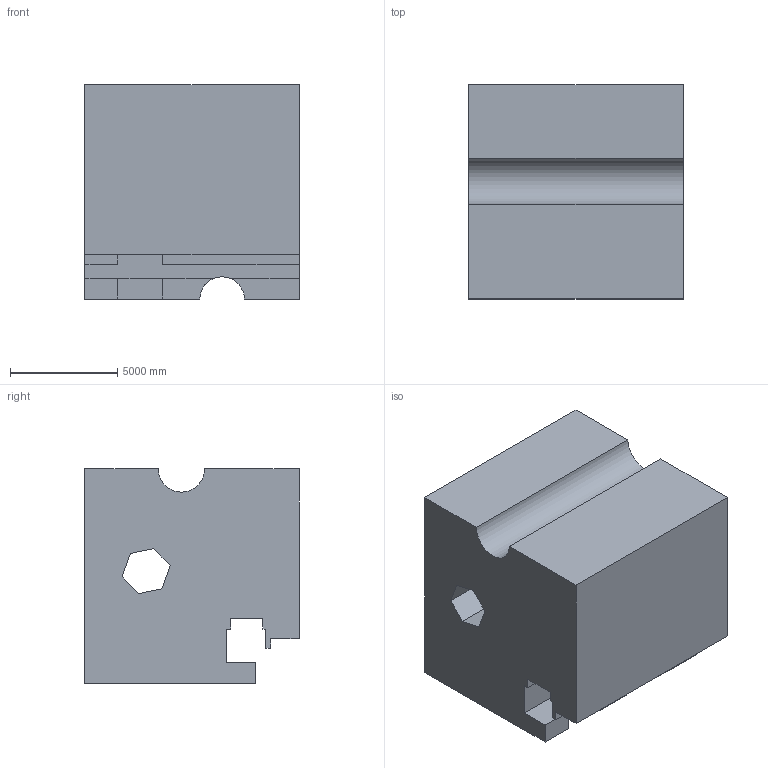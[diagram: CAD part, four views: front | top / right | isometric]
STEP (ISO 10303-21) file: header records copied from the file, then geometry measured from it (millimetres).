
FILE_DESCRIPTION (( 'STEP AP203' ), '1' );
FILE_NAME ('1982.STEP', '2022-08-25T16:57:40', ( 'user' ), ( '' ), 'SwSTEP 2.0', 'SolidWorks 2021', '' );
FILE_SCHEMA (( 'CONFIG_CONTROL_DESIGN' ));
Length unit declared in the file: centimetre
Products named in the file (1): 1982
Bounding box: 10000 x 10000 x 10000 mm (x, y, z)
Volume: 854703775831.9 mm3; surface area: 717957628.2 mm2
Topology: 1 solids, 1 shells, 45 faces, 126 edges, 84 vertices
Faces by surface type: plane 40, cylinder 5
Entity records: 1513 total; most frequent: CARTESIAN_POINT 256, ORIENTED_EDGE 252, DIRECTION 230, EDGE_CURVE 126, VECTOR 114, LINE 114, VERTEX_POINT 84, AXIS2_PLACEMENT_3D 58
